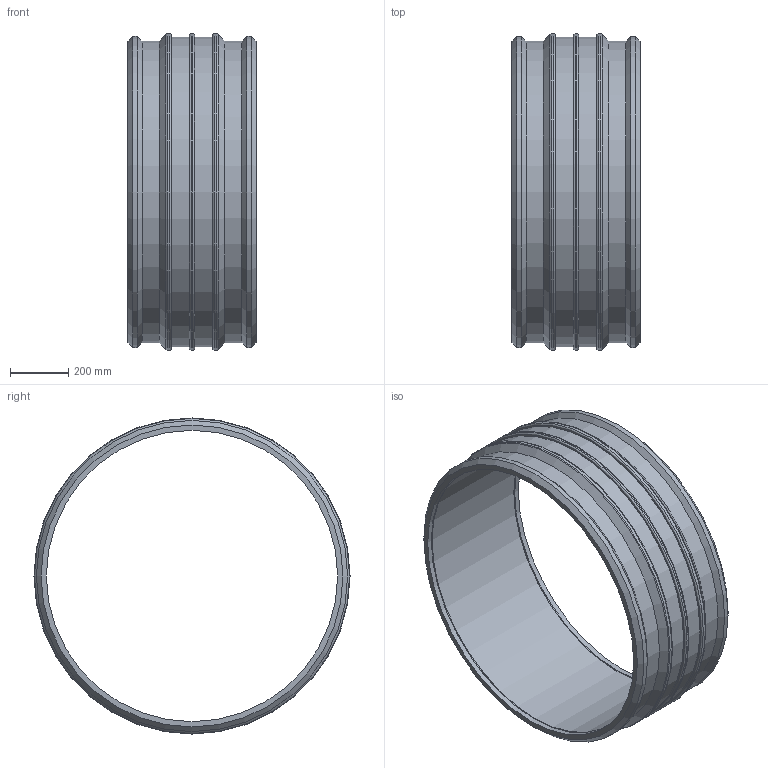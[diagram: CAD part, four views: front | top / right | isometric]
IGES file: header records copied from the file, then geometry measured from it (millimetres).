
Global section: file name: 4601S31000.ipt; native system: Autodesk Inventor 2015; preprocessor: unknown; author: KIM; date: 20190627.094245; units: millimetre
Bounding box: 440 x 1085 x 1085 mm (x, y, z)
Volume: 40474992.9 mm3; surface area: 3233163.4 mm2
Topology: 1 solids, 1 shells, 48 faces, 106 edges, 70 vertices
Faces by surface type: cylinder 15, plane 14, revolution 13, cone 6
Full cylindrical faces by diameter (mm): 4 x2, 1035.96 x2, 1063.3 x2, 1068 x2, 1085 x3
